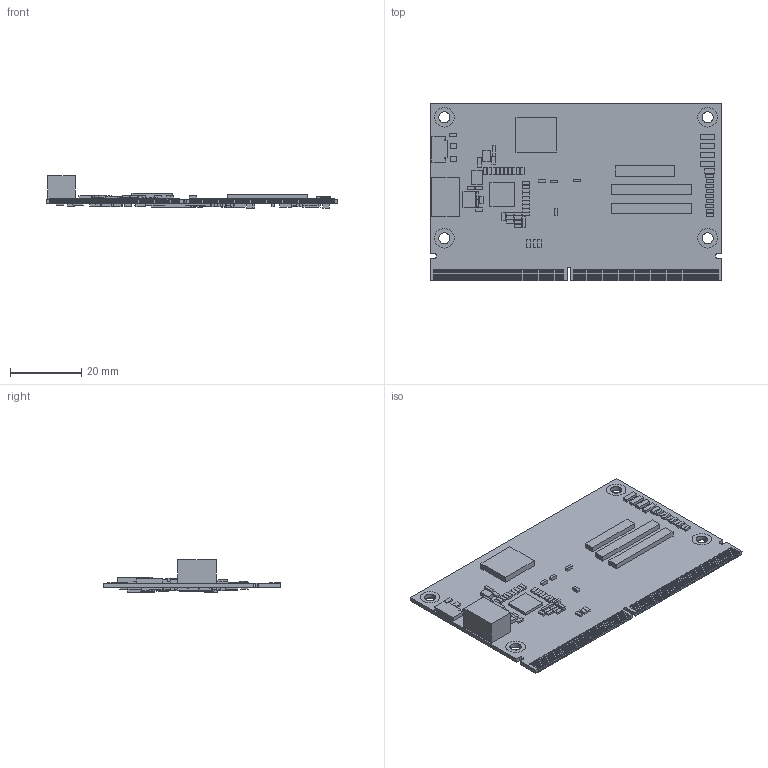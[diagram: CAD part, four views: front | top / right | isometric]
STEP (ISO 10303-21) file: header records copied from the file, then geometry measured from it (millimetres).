
FILE_DESCRIPTION(('CATIA V5 STEP'),'2;1');
FILE_NAME('\\NUFOTEC-SERVER\Projekt-Kunder\Embedded-Artists\Projekt-Cadfiler-Com+Carrier-Board\Cad-Data\Catia-V5-R19\uCOM Adapter Board\160706-UCOM-ADAPTER-BOARD-REV-P_ASSY-NUFOTEC-2016-08-17.stp','2016-08-19T08:08:05+00:00',('none'),('none'),'CATIA Version 5 Release 19 GA (IN-10)','CATIA V5 STEP AP214','none');
FILE_SCHEMA(('AUTOMOTIVE_DESIGN { 1 0 10303 214 1 1 1 1 }'));
Products named in the file (1): 160706UCOMADAPTERBOARDREVP_ASM_ASM_AllCATPart
Bounding box: 82 x 50 x 9.16 mm (x, y, z)
Volume: 6717 mm3; surface area: 14661.9 mm2
Topology: 380 solids, 380 shells, 2396 faces, 5070 edges, 3434 vertices
Faces by surface type: plane 2135, cylinder 261
Entity records: 62238 total; most frequent: CARTESIAN_POINT 10355, ORIENTED_EDGE 10140, DIRECTION 8753, EDGE_CURVE 5070, VECTOR 4386, LINE 4386, VERTEX_POINT 3434, AXIS2_PLACEMENT_3D 2526
